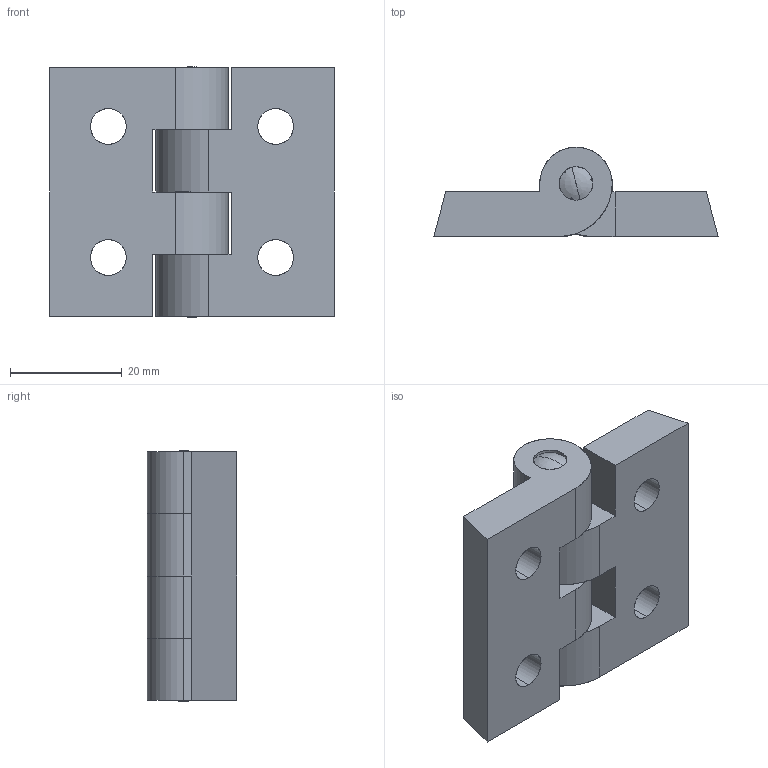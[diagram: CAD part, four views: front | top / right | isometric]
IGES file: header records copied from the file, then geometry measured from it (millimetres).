
Start section: SolidWorks IGES file using analytic representation for surfaces
Global section: file name: Z:\20. PD&I\Biblioteca Servidor PDI\Componentes para perfil\Dobradiças\DBP30-01\4. IGS-STL\DBP30-01 - Dobradiça nylon 30mm.IGS; native system: SolidWorks 2019; preprocessor: SolidWorks 2019; author: ludimylla.sousa; date: 220715.104603; units: millimetre
Bounding box: 51 x 16 x 45 mm (x, y, z)
Surface area: 9776.9 mm2 (no closed solid volume)
Topology: 0 solids, 0 shells, 69 faces, 1034 edges, 1033 vertices
Faces by surface type: revolution 38, bspline 31
